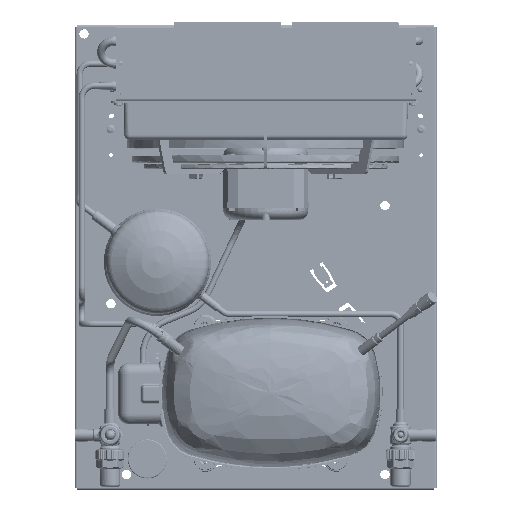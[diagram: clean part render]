
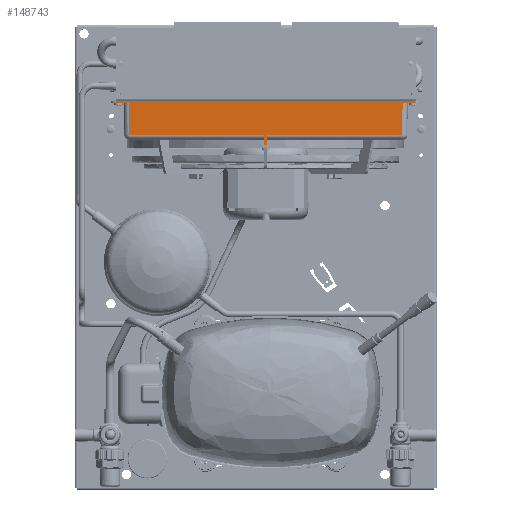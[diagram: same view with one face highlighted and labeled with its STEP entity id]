
A CAD part, top view. The second image highlights one B-rep face of the part: STEP entity #148743.
In plain terms, the highlighted planar face has unit normal (0, -0.018, 1) as drawn and (0, 1, 0.017) by its records, which use the part's own axes.
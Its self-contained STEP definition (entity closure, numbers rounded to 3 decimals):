
#1591=B_SPLINE_CURVE_WITH_KNOTS('',3,(#230792,#230793,#230794,#230795,#230796,
#230797,#230798,#230799,#230800,#230801),.UNSPECIFIED.,.F.,.F.,(4,1,1,1,
1,1,1,4),(0.,0.001,0.001,
0.001,0.002,0.002,0.002,
0.002),.UNSPECIFIED.);
#1592=B_SPLINE_CURVE_WITH_KNOTS('',3,(#230943,#230944,#230945,#230946,#230947,
#230948,#230949,#230950,#230951,#230952),.UNSPECIFIED.,.F.,.F.,(4,1,1,1,
1,1,1,4),(0.,0.001,0.001,
0.001,0.002,0.002,0.002,
0.002),.UNSPECIFIED.);
#50525=ORIENTED_EDGE('',*,*,#82890,.F.);
#50526=ORIENTED_EDGE('',*,*,#82891,.T.);
#50527=ORIENTED_EDGE('',*,*,#82892,.T.);
#50528=ORIENTED_EDGE('',*,*,#81258,.F.);
#50529=ORIENTED_EDGE('',*,*,#82804,.T.);
#50530=ORIENTED_EDGE('',*,*,#81209,.F.);
#50531=ORIENTED_EDGE('',*,*,#82875,.F.);
#50532=ORIENTED_EDGE('',*,*,#81233,.T.);
#50533=ORIENTED_EDGE('',*,*,#82893,.T.);
#50534=ORIENTED_EDGE('',*,*,#82894,.T.);
#50535=ORIENTED_EDGE('',*,*,#82895,.T.);
#50536=ORIENTED_EDGE('',*,*,#82896,.F.);
#81209=EDGE_CURVE('',#98495,#98496,#110198,.T.);
#81233=EDGE_CURVE('',#98519,#98520,#110218,.T.);
#81258=EDGE_CURVE('',#98544,#98545,#110238,.T.);
#82804=EDGE_CURVE('',#98544,#98496,#1591,.T.);
#82875=EDGE_CURVE('',#98519,#98495,#1592,.T.);
#82890=EDGE_CURVE('',#99607,#99608,#110650,.T.);
#82891=EDGE_CURVE('',#99607,#99609,#110651,.F.);
#82892=EDGE_CURVE('',#99609,#98545,#110652,.F.);
#82893=EDGE_CURVE('',#98520,#99610,#110653,.T.);
#82894=EDGE_CURVE('',#99610,#99611,#110654,.F.);
#82895=EDGE_CURVE('',#99611,#99612,#110655,.T.);
#82896=EDGE_CURVE('',#99608,#99612,#110656,.T.);
#98495=VERTEX_POINT('',#194127);
#98496=VERTEX_POINT('',#194129);
#98519=VERTEX_POINT('',#194177);
#98520=VERTEX_POINT('',#194178);
#98544=VERTEX_POINT('',#194227);
#98545=VERTEX_POINT('',#194229);
#99607=VERTEX_POINT('',#230984);
#99608=VERTEX_POINT('',#230985);
#99609=VERTEX_POINT('',#230987);
#99610=VERTEX_POINT('',#230990);
#99611=VERTEX_POINT('',#230992);
#99612=VERTEX_POINT('',#230994);
#110198=LINE('',#194128,#117484);
#110218=LINE('',#194176,#117504);
#110238=LINE('',#194228,#117524);
#110650=LINE('',#230983,#117936);
#110651=LINE('',#230986,#117937);
#110652=LINE('',#230988,#117938);
#110653=LINE('',#230989,#117939);
#110654=LINE('',#230991,#117940);
#110655=LINE('',#230993,#117941);
#110656=LINE('',#230995,#117942);
#117484=VECTOR('',#168727,1000.);
#117504=VECTOR('',#168757,1000.);
#117524=VECTOR('',#168789,1000.);
#117936=VECTOR('',#170537,1000.);
#117937=VECTOR('',#170538,1000.);
#117938=VECTOR('',#170539,1000.);
#117939=VECTOR('',#170540,1000.);
#117940=VECTOR('',#170541,1000.);
#117941=VECTOR('',#170542,1000.);
#117942=VECTOR('',#170543,1000.);
#125749=EDGE_LOOP('',(#50525,#50526,#50527,#50528,#50529,#50530,#50531,
#50532,#50533,#50534,#50535,#50536));
#135427=FACE_BOUND('',#125749,.T.);
#143498=PLANE('',#157367);
#148743=ADVANCED_FACE('',(#135427),#143498,.F.);
#157367=AXIS2_PLACEMENT_3D('',#230982,#170535,#170536);
#168727=DIRECTION('',(1.,0.,0.));
#168757=DIRECTION('',(1.,0.,0.));
#168789=DIRECTION('',(-1.,0.,0.));
#170535=DIRECTION('',(0.,-1.,-0.017));
#170536=DIRECTION('',(0.,0.017,-1.));
#170537=DIRECTION('',(0.,-0.017,1.));
#170538=DIRECTION('',(-1.,0.,0.));
#170539=DIRECTION('',(-0.017,-0.017,1.));
#170540=DIRECTION('',(0.017,-0.017,1.));
#170541=DIRECTION('',(-1.,0.,0.));
#170542=DIRECTION('',(0.,-0.017,1.));
#170543=DIRECTION('',(-1.,0.,0.));
#194127=CARTESIAN_POINT('',(-144.375,138.363,0.));
#194128=CARTESIAN_POINT('',(-144.375,138.363,0.));
#194129=CARTESIAN_POINT('',(144.375,138.363,0.));
#194176=CARTESIAN_POINT('',(140.869,138.328,2.));
#194177=CARTESIAN_POINT('',(-144.965,138.328,2.));
#194178=CARTESIAN_POINT('',(-132.329,138.328,2.));
#194227=CARTESIAN_POINT('',(144.965,138.328,2.));
#194228=CARTESIAN_POINT('',(140.869,138.328,2.));
#194229=CARTESIAN_POINT('',(132.329,138.328,2.));
#230792=CARTESIAN_POINT('',(144.965,138.328,2.));
#230793=CARTESIAN_POINT('',(144.939,138.331,1.824));
#230794=CARTESIAN_POINT('',(144.884,138.338,1.472));
#230795=CARTESIAN_POINT('',(144.802,138.345,1.035));
#230796=CARTESIAN_POINT('',(144.723,138.351,0.688));
#230797=CARTESIAN_POINT('',(144.653,138.356,0.431));
#230798=CARTESIAN_POINT('',(144.577,138.359,0.22));
#230799=CARTESIAN_POINT('',(144.492,138.362,0.066));
#230800=CARTESIAN_POINT('',(144.42,138.363,0.));
#230801=CARTESIAN_POINT('',(144.375,138.363,0.));
#230943=CARTESIAN_POINT('',(-144.965,138.328,2.));
#230944=CARTESIAN_POINT('',(-144.939,138.331,1.824));
#230945=CARTESIAN_POINT('',(-144.884,138.338,1.472));
#230946=CARTESIAN_POINT('',(-144.802,138.345,1.035));
#230947=CARTESIAN_POINT('',(-144.723,138.351,0.688));
#230948=CARTESIAN_POINT('',(-144.653,138.356,0.431));
#230949=CARTESIAN_POINT('',(-144.577,138.359,0.22));
#230950=CARTESIAN_POINT('',(-144.492,138.362,0.066));
#230951=CARTESIAN_POINT('',(-144.42,138.363,0.));
#230952=CARTESIAN_POINT('',(-144.375,138.363,0.));
#230982=CARTESIAN_POINT('',(432.954,137.811,31.613));
#230983=CARTESIAN_POINT('',(1.5,137.617,42.731));
#230984=CARTESIAN_POINT('',(1.5,137.786,33.087));
#230985=CARTESIAN_POINT('',(1.5,137.617,42.731));
#230986=CARTESIAN_POINT('',(432.954,137.786,33.087));
#230987=CARTESIAN_POINT('',(131.787,137.786,33.087));
#230988=CARTESIAN_POINT('',(132.331,138.33,1.913));
#230989=CARTESIAN_POINT('',(-131.702,137.702,37.913));
#230990=CARTESIAN_POINT('',(-131.787,137.786,33.087));
#230991=CARTESIAN_POINT('',(432.954,137.786,33.087));
#230992=CARTESIAN_POINT('',(-1.5,137.786,33.087));
#230993=CARTESIAN_POINT('',(-1.5,137.617,42.731));
#230994=CARTESIAN_POINT('',(-1.5,137.617,42.731));
#230995=CARTESIAN_POINT('',(1.5,137.617,42.731));
